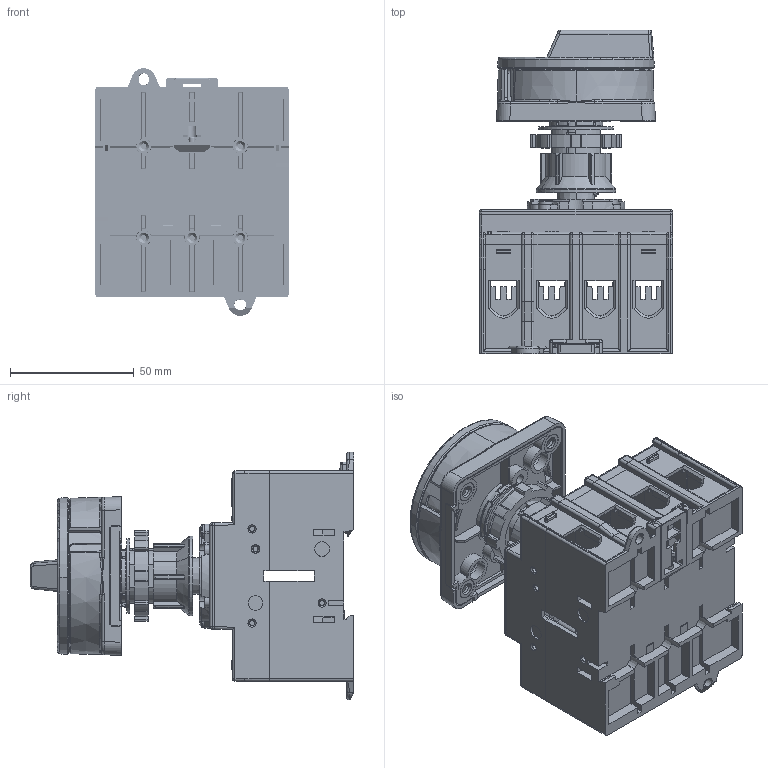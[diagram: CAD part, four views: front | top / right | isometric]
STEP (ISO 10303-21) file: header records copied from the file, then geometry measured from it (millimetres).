
FILE_DESCRIPTION (( 'STEP AP203' ), '1' );
FILE_NAME ('LTS100 VZVH4 A4 X90.STEP', '2013-02-14T05:31:14', ( 'edv' ), ( '' ), 'SwSTEP 2.0', 'SolidWorks 2013', '' );
FILE_SCHEMA (( 'CONFIG_CONTROL_DESIGN' ));
Length unit declared in the file: millimetre
Products named in the file (29): 8238-2; Baugruppe2^49895; LTS100 VZVH4 A4 X90; 7017-1; 8235_-1; 28822-1; 2406_30; 8240_SW7; 49895_ohne Innenleben; 65487; 4041_25; 8184; 8025; 8237; 2406_17; 8216; 8239; 2406_27; 49796_始d d; 8064; 8436_lock 35ø; 8207_44; 49798; 8242_SV4 lock; 8437_lock 45ø; 8238; 49799; 8115-3; 8438_lock 45ø
Assembly tree (30 placements, depth 4):
  LTS100 VZVH4 A4 X90
    49895_ohne Innenleben
      49796_始d d
      Baugruppe2^49895
        49798
        49799
      28822-1
    8184
    2406_17
    2406_27  x2
    8238-2
      8207_44
      8238
      2406_17
    8242_SV4 lock
      8235_-1
      8240_SW7
      4041_25
      8237
      8239
      8436_lock 35ø
      8437_lock 45ø
      65487
        8438_lock 45ø
        7017-1
        2406_30
      8025
      8216
      8064
    8115-3
Bounding box: 78 x 130.7 x 99.99 mm (x, y, z)
Volume: 155440.6 mm3; surface area: 187004.9 mm2
Topology: 25 solids, 25 shells, 5492 faces, 14930 edges, 9656 vertices
Faces by surface type: plane 2984, cylinder 1023, bspline 772, cone 675, torus 29, sphere 9
Entity records: 202276 total; most frequent: CARTESIAN_POINT 67422, ORIENTED_EDGE 29458, DIRECTION 24603, EDGE_CURVE 14729, VERTEX_POINT 9554, LINE 8951, VECTOR 8951, AXIS2_PLACEMENT_3D 7826
